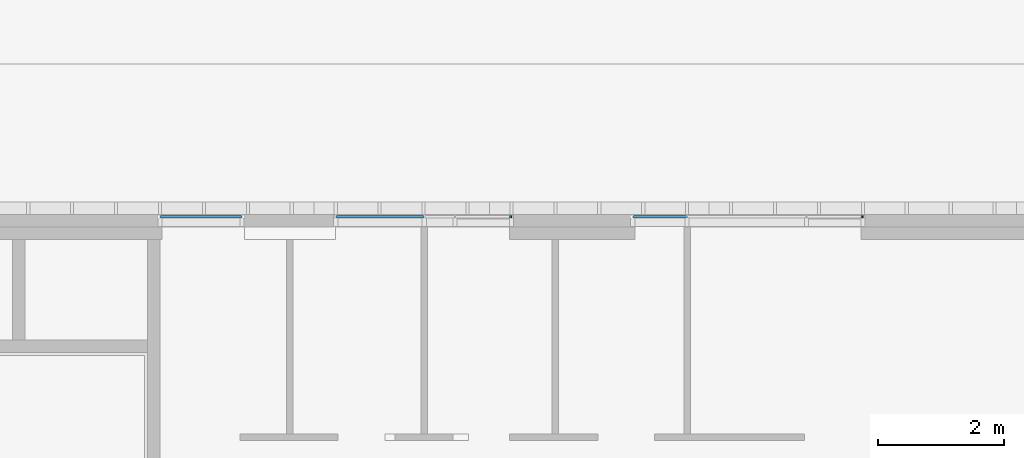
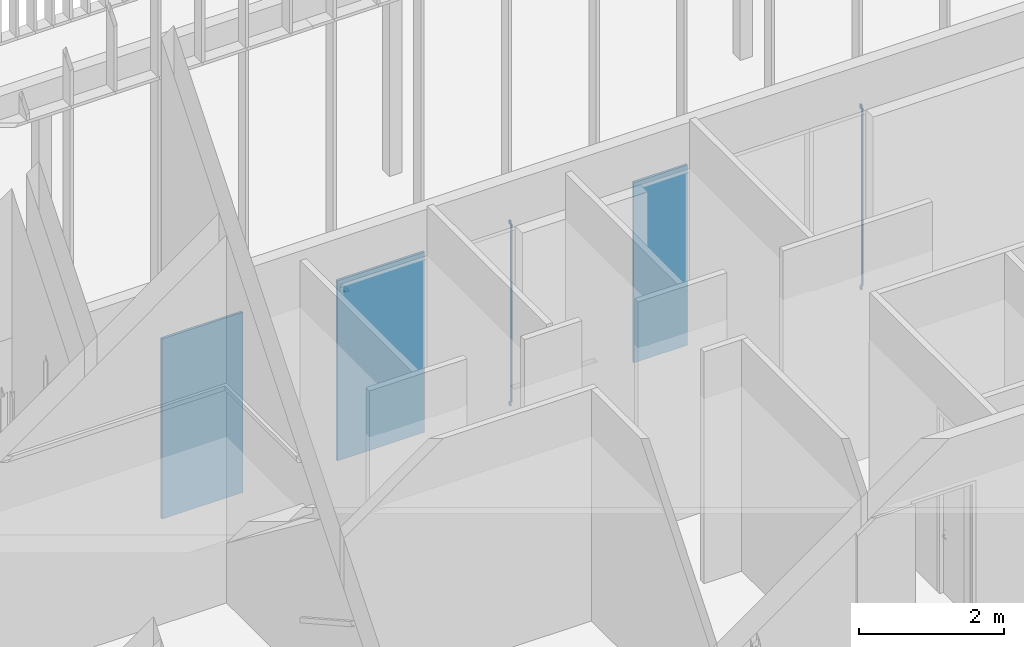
# One storey, part 74 of 240: 5 plates, 4 elements without a shape of their own.
"""IFC2X3 building model written with IfcOpenShell, lengths in centimetres."""

from ifc_helpers import new_model, entity, si_unit, converted_unit, derived_unit, direction, frame, origin, origin_2d_with_axis, place, context, subcontext, project, spatial, rectangle, extrude, face_set, surface_model, source, transform, mapped, material, layer, layer_set, layer_usage, type_object, type_shapes, element, aggregate, save


model = new_model("IFC2X3")

# Units and contexts
model_context = context("Model", 3, precision=0.001, world=origin(), true_north=direction((6.12303176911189e-17, 1.0)))
body_context = subcontext(model_context, "Body", "Model", "MODEL_VIEW")
ifc_project = project(units=[si_unit("LENGTHUNIT", "METRE", prefix="CENTI"), si_unit("AREAUNIT", "SQUARE_METRE"), si_unit("VOLUMEUNIT", "CUBIC_METRE"), converted_unit("PLANEANGLEUNIT", "DEGREE", entity("IfcRatioMeasure", 0.0174532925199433), si_unit("PLANEANGLEUNIT", "RADIAN"), dimensions=[0, 0, 0, 0, 0, 0, 0]), si_unit("MASSUNIT", "GRAM", prefix="KILO"), derived_unit("MASSDENSITYUNIT", [(si_unit("MASSUNIT", "GRAM", prefix="KILO"), 1), (si_unit("LENGTHUNIT", "METRE"), -3)]), si_unit("TIMEUNIT", "SECOND"), si_unit("FREQUENCYUNIT", "HERTZ"), si_unit("THERMODYNAMICTEMPERATUREUNIT", "DEGREE_CELSIUS"), derived_unit("THERMALTRANSMITTANCEUNIT", [(si_unit("MASSUNIT", "GRAM", prefix="KILO"), 1), (si_unit("THERMODYNAMICTEMPERATUREUNIT", "KELVIN"), -1), (si_unit("TIMEUNIT", "SECOND"), -3)]), derived_unit("VOLUMETRICFLOWRATEUNIT", [(si_unit("LENGTHUNIT", "METRE"), 3), (si_unit("TIMEUNIT", "SECOND"), -1)]), si_unit("ELECTRICCURRENTUNIT", "AMPERE"), si_unit("ELECTRICVOLTAGEUNIT", "VOLT"), si_unit("POWERUNIT", "WATT"), si_unit("FORCEUNIT", "NEWTON", prefix="KILO"), si_unit("ILLUMINANCEUNIT", "LUX"), si_unit("LUMINOUSFLUXUNIT", "LUMEN"), si_unit("LUMINOUSINTENSITYUNIT", "CANDELA"), derived_unit("USERDEFINED", [(si_unit("MASSUNIT", "GRAM", prefix="KILO"), -1), (si_unit("LENGTHUNIT", "METRE"), -2), (si_unit("TIMEUNIT", "SECOND"), 3), (si_unit("LUMINOUSFLUXUNIT", "LUMEN"), 1)]), derived_unit("LINEARVELOCITYUNIT", [(si_unit("LENGTHUNIT", "METRE"), 1), (si_unit("TIMEUNIT", "SECOND"), -1)]), si_unit("PRESSUREUNIT", "PASCAL"), derived_unit("USERDEFINED", [(si_unit("LENGTHUNIT", "METRE"), -2), (si_unit("MASSUNIT", "GRAM", prefix="KILO"), 1), (si_unit("TIMEUNIT", "SECOND"), -2)])], contexts=[model_context])

# Site, building, storey
site_placement = place(None, frame((-2781.94577612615, 7442.24238424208, 0.0)))
site = spatial("IfcSite", under=ifc_project, at=site_placement, Name="Default", CompositionType="ELEMENT")
building_placement = place(site_placement, origin())
building = spatial("IfcBuilding", under=site, at=building_placement, CompositionType="ELEMENT")
storey_placement = place(building_placement, origin())
storey = spatial("IfcBuildingStorey", under=building, at=storey_placement, Name="N00 - COO", CompositionType="ELEMENT", Elevation=0.0)

# Curtain wall, plate
curtain_wall_type_1 = type_object("IfcCurtainWallType", Name="Mur-rideau:07 - mur rideau trame 280 cm", PredefinedType="NOTDEFINED")
curtain_wall_1_placement = place(building_placement, origin())
curtain_wall_1 = element("IfcCurtainWall", 1, at=curtain_wall_1_placement, inside=storey, type_object=curtain_wall_type_1, Name="Mur-rideau:07 - mur rideau trame 280 cm", ObjectType="Mur-rideau:07 - mur rideau trame 280 cm")
ifc_material = material(Name="Verre")
ifc_layer = layer(ifc_material, 4.0)
ifc_layer_set = layer_set([ifc_layer], Name="Panneau système:Vitré")
ifc_layer_usage_1 = layer_usage(ifc_layer_set, "AXIS3", "POSITIVE", 0.0)
plate_type_1 = type_object("IfcPlateType", Name="Vitré", PredefinedType="CURTAIN_PANEL", material=ifc_layer_set)
shared_shape_1 = source(origin(), body_context, "Body", "SweptSolid", [
    extrude(rectangle(XDim=4.0, YDim=129.012499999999, at=origin_2d_with_axis()), frame((0.0, 0.0, 0.0), z_axis=(0.0, 0.0, 1.0), x_axis=(0.0, 1.0, 0.0)), (0.0, 0.0, 1.0), 304.2625),
])
type_shapes(plate_type_1, [shared_shape_1])
plate_1_placement = place(curtain_wall_1_placement, frame((-3143.92488284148, -1073.7999999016, 4.11874999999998)))
plate_1 = element("IfcPlate", 2, at=plate_1_placement, type_object=plate_type_1, material=ifc_layer_usage_1, Name="Panneau système:Vitré", ObjectType="Panneau système:Vitré", context=body_context, shape_type="MappedRepresentation", body=[
    mapped(shared_shape_1, transform((0.0, 0.0, 0.0), scale=1.0)),
])
aggregate(curtain_wall_1, [plate_1])

# Curtain wall, plates
curtain_wall_2_placement = place(building_placement, origin())
curtain_wall_2 = element("IfcCurtainWall", 3, at=curtain_wall_2_placement, inside=storey, type_object=curtain_wall_type_1, Name="Mur-rideau:07 - mur rideau trame 280 cm", ObjectType="Mur-rideau:07 - mur rideau trame 280 cm")
ifc_layer_usage_2 = layer_usage(ifc_layer_set, "AXIS3", "POSITIVE", 0.0)
plate_type_2 = type_object("IfcPlateType", Name="Vitré", PredefinedType="CURTAIN_PANEL", material=ifc_layer_set)
shared_shape_2 = source(origin(), body_context, "Body", "SweptSolid", [
    extrude(rectangle(XDim=4.0, YDim=139.262496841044, at=origin_2d_with_axis()), frame((0.0, 0.0, 0.0), z_axis=(0.0, 0.0, 1.0), x_axis=(0.0, 1.0, 0.0)), (0.0, 0.0, 1.0), 304.2625),
])
type_shapes(plate_type_2, [shared_shape_2])
plate_2_placement = place(curtain_wall_2_placement, frame((-2858.79988442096, -1073.7999999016, 4.11874999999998)))
plate_2 = element("IfcPlate", 4, at=plate_2_placement, type_object=plate_type_2, material=ifc_layer_usage_2, Name="Panneau système:Vitré", ObjectType="Panneau système:Vitré", context=body_context, shape_type="MappedRepresentation", body=[
    mapped(shared_shape_2, transform((0.0, 0.0, 0.0), scale=1.0)),
])
plate_type_3 = type_object("IfcPlateType", Name="Vitré", PredefinedType="CURTAIN_PANEL", material=ifc_layer_set)
shared_shape_3 = source(origin(), body_context, "Body", "SurfaceModel", [
    surface_model("IfcFaceBasedSurfaceModel", [(-2.05937496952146, -2.0, 0.0), (0.321874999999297, -2.0, 0.0), (0.321874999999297, -2.0, 312.5), (-2.05937496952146, -2.0, 312.5), (-2.05937500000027, -2.0, 306.0), (2.05937499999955, -2.0, 306.0), (2.05937499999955, -2.0, 6.49999999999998), (-2.05937500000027, -2.0, 6.5), (-2.05937496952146, 2.0, 0.0), (-2.05937500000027, 2.0, 6.5), (2.05937499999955, 2.0, 6.49999999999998), (2.05937499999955, 2.0, 306.0), (-2.05937500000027, 2.0, 306.0), (-2.05937496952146, 2.0, 312.5), (0.321874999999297, 2.0, 312.5), (0.321874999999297, 2.0, 0.0)], [face_set([[[0, 1, 2, 3, 4, 5, 6, 7]], [[8, 9, 10, 11, 12, 13, 14, 15]], [[1, 0, 8, 15]], [[2, 1, 15, 14]], [[3, 2, 14, 13]], [[4, 3, 13, 12]], [[5, 11, 12, 4]], [[6, 10, 11, 5]], [[7, 6, 10, 9]], [[0, 7, 9, 8]]])]),
])
type_shapes(plate_type_3, [shared_shape_3])
plate_3_placement = place(curtain_wall_2_placement, frame((-2650.49050784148, -1073.7999999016, 0.0)))
plate_3 = element("IfcPlate", 5, at=plate_3_placement, type_object=plate_type_3, Name="Panneau système:Vitré", ObjectType="Panneau système:Vitré", context=body_context, shape_type="MappedRepresentation", body=[
    mapped(shared_shape_3, transform((0.0, 0.0, 0.0), scale=1.0)),
])
aggregate(curtain_wall_2, [plate_2, plate_3])

# Curtain wall, plate
curtain_wall_3_placement = place(building_placement, origin())
curtain_wall_3 = element("IfcCurtainWall", 6, at=curtain_wall_3_placement, inside=storey, type_object=curtain_wall_type_1, Name="Mur-rideau:07 - mur rideau trame 280 cm", ObjectType="Mur-rideau:07 - mur rideau trame 280 cm")
plate_4_placement = place(curtain_wall_3_placement, frame((-2090.49050784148, -1073.7999999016, 0.0)))
plate_4 = element("IfcPlate", 7, at=plate_4_placement, type_object=plate_type_3, Name="Panneau système:Vitré", ObjectType="Panneau système:Vitré", context=body_context, shape_type="MappedRepresentation", body=[
    mapped(shared_shape_3, transform((0.0, 0.0, 0.0), scale=1.0)),
])
aggregate(curtain_wall_3, [plate_4])

curtain_wall_type_2 = type_object("IfcCurtainWallType", Name="Mur-rideau:07 - mur rideau trame 90 cm", PredefinedType="NOTDEFINED")
curtain_wall_4_placement = place(building_placement, origin())
curtain_wall_4 = element("IfcCurtainWall", 8, at=curtain_wall_4_placement, inside=storey, type_object=curtain_wall_type_2, Name="Mur-rideau:07 - mur rideau trame 90 cm", ObjectType="Mur-rideau:07 - mur rideau trame 90 cm")
ifc_layer_usage_3 = layer_usage(ifc_layer_set, "AXIS3", "POSITIVE", 0.0)
plate_type_4 = type_object("IfcPlateType", Name="Vitré", PredefinedType="CURTAIN_PANEL", material=ifc_layer_set)
shared_shape_4 = source(origin(), body_context, "Body", "SweptSolid", [
    extrude(rectangle(XDim=4.0, YDim=85.8812500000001, at=origin_2d_with_axis()), frame((0.0, 0.0, 0.0), z_axis=(0.0, 0.0, 1.0), x_axis=(0.0, 1.0, 0.0)), (0.0, 0.0, 1.0), 304.2625),
])
type_shapes(plate_type_4, [shared_shape_4])
plate_5_placement = place(curtain_wall_4_placement, frame((-2412.24050784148, -1073.7999999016, 4.11874999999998), z_axis=(0.0, 0.0, 1.0), x_axis=(-1.0, 0.0, 0.0)))
plate_5 = element("IfcPlate", 9, at=plate_5_placement, type_object=plate_type_4, material=ifc_layer_usage_3, Name="Panneau système:Vitré", ObjectType="Panneau système:Vitré", context=body_context, shape_type="MappedRepresentation", body=[
    mapped(shared_shape_4, transform((0.0, 0.0, 0.0), scale=1.0)),
])
aggregate(curtain_wall_4, [plate_5])

save(model, "model.ifc")
